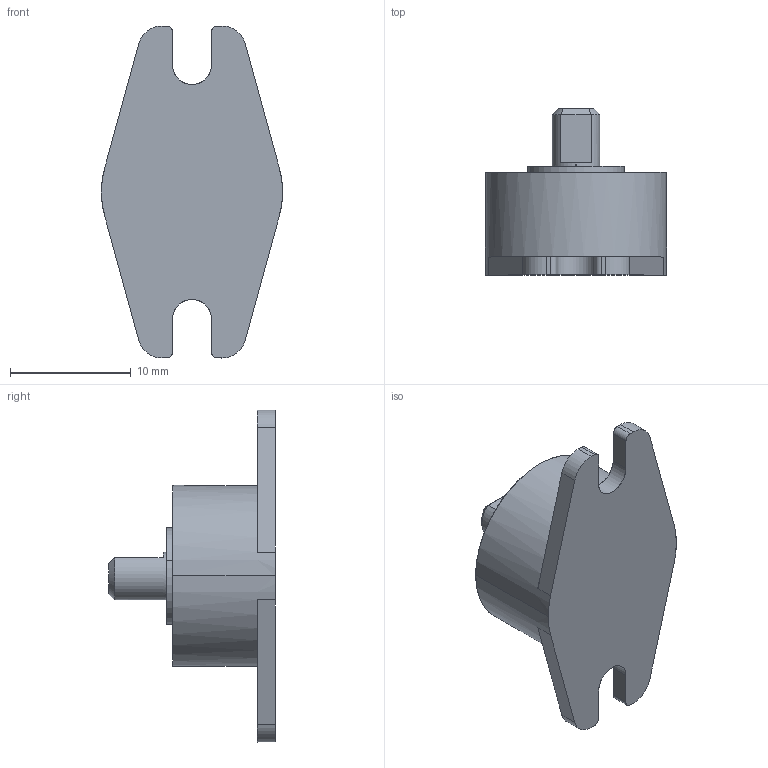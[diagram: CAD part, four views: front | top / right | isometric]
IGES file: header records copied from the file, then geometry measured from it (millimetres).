
Start section: SolidWorks IGES file using analytic representation for surfaces
Global section: file name: C:\3D-DATA\型式\R\【提出用】\IGS\FRT-C2.IGS; native system: SolidWorks 2014; preprocessor: SolidWorks 2014; author: flgijutsu; date: 140516.191545; units: millimetre
Bounding box: 15 x 13.8 x 27.5 mm (x, y, z)
Surface area: 1112.1 mm2 (no closed solid volume)
Topology: 0 solids, 0 shells, 40 faces, 582 edges, 582 vertices
Faces by surface type: bspline 22, revolution 18
